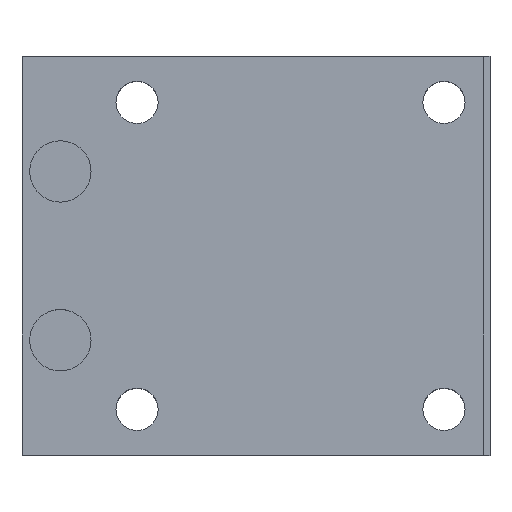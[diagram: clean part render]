
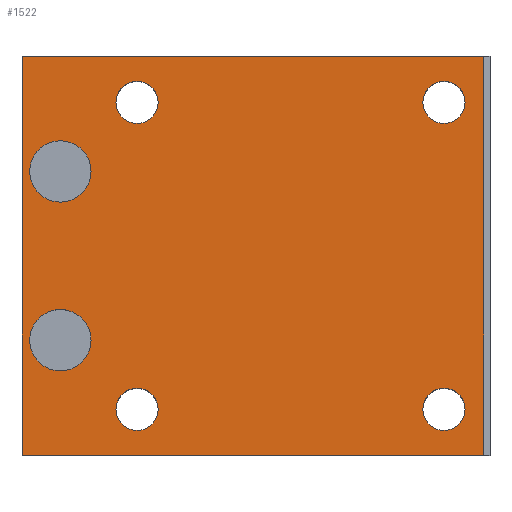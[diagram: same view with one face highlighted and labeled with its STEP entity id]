
A CAD part, top view. The second image highlights one B-rep face of the part: STEP entity #1522.
In plain terms, the highlighted planar face has unit normal (0, 0, 1).
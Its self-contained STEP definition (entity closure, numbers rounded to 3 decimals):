
#28 = EDGE_CURVE ( 'NONE', #543, #615, #150, .T. ) ;
#33 = CARTESIAN_POINT ( 'NONE',  ( 25.2, 26., 86.5 ) ) ;
#66 = CIRCLE ( 'NONE', #1108, 4. ) ;
#83 = CARTESIAN_POINT ( 'NONE',  ( -34., -11., 86.5 ) ) ;
#107 = EDGE_CURVE ( 'NONE', #718, #912, #810, .T. ) ;
#109 = EDGE_LOOP ( 'NONE', ( #925, #552 ) ) ;
#136 = LINE ( 'NONE', #534, #1280 ) ;
#150 = CIRCLE ( 'NONE', #1101, 2.75 ) ;
#154 = EDGE_CURVE ( 'NONE', #178, #311, #1574, .T. ) ;
#155 = CARTESIAN_POINT ( 'NONE',  ( -30., -11., 86.5 ) ) ;
#167 = CARTESIAN_POINT ( 'NONE',  ( 20., 20., 86.5 ) ) ;
#174 = CARTESIAN_POINT ( 'NONE',  ( 17.25, -20., 86.5 ) ) ;
#177 = CARTESIAN_POINT ( 'NONE',  ( 26., -26., 86.5 ) ) ;
#178 = VERTEX_POINT ( 'NONE', #83 ) ;
#185 = CIRCLE ( 'NONE', #1601, 2.75 ) ;
#208 = ORIENTED_EDGE ( 'NONE', *, *, #586, .F. ) ;
#213 = EDGE_CURVE ( 'NONE', #221, #1443, #1166, .T. ) ;
#221 = VERTEX_POINT ( 'NONE', #1030 ) ;
#227 = EDGE_LOOP ( 'NONE', ( #1055, #208 ) ) ;
#232 = CARTESIAN_POINT ( 'NONE',  ( -35., -26., 86.5 ) ) ;
#245 = CARTESIAN_POINT ( 'NONE',  ( 22.75, -20., 86.5 ) ) ;
#255 = DIRECTION ( 'NONE',  ( 1., 0., 0. ) ) ;
#258 = DIRECTION ( 'NONE',  ( 1., 0., 0. ) ) ;
#273 = DIRECTION ( 'NONE',  ( 1., 0., 0. ) ) ;
#311 = VERTEX_POINT ( 'NONE', #794 ) ;
#313 = DIRECTION ( 'NONE',  ( 1., 0., 0. ) ) ;
#330 = VERTEX_POINT ( 'NONE', #1616 ) ;
#335 = VECTOR ( 'NONE', #1557, 1000. ) ;
#351 = ORIENTED_EDGE ( 'NONE', *, *, #1432, .F. ) ;
#356 = EDGE_LOOP ( 'NONE', ( #975, #1075, #1744, #886 ) ) ;
#358 = DIRECTION ( 'NONE',  ( 1., 0., 0. ) ) ;
#371 = EDGE_CURVE ( 'NONE', #1746, #1094, #988, .T. ) ;
#380 = FACE_BOUND ( 'NONE', #109, .T. ) ;
#384 = VERTEX_POINT ( 'NONE', #421 ) ;
#388 = EDGE_CURVE ( 'NONE', #330, #1233, #1224, .T. ) ;
#402 = ORIENTED_EDGE ( 'NONE', *, *, #371, .F. ) ;
#408 = DIRECTION ( 'NONE',  ( 1., 0., 0. ) ) ;
#419 = EDGE_LOOP ( 'NONE', ( #446, #1778 ) ) ;
#421 = CARTESIAN_POINT ( 'NONE',  ( -17.25, 20., 86.5 ) ) ;
#428 = DIRECTION ( 'NONE',  ( -1., 0., 0. ) ) ;
#446 = ORIENTED_EDGE ( 'NONE', *, *, #1119, .F. ) ;
#448 = AXIS2_PLACEMENT_3D ( 'NONE', #1529, #1378, #1524 ) ;
#486 = CARTESIAN_POINT ( 'NONE',  ( 25.2, 26., 86.5 ) ) ;
#496 = DIRECTION ( 'NONE',  ( 1., 0., 0. ) ) ;
#519 = VERTEX_POINT ( 'NONE', #1145 ) ;
#534 = CARTESIAN_POINT ( 'NONE',  ( 26., 26., 86.5 ) ) ;
#541 = AXIS2_PLACEMENT_3D ( 'NONE', #778, #1315, #1427 ) ;
#543 = VERTEX_POINT ( 'NONE', #1034 ) ;
#544 = LINE ( 'NONE', #232, #1656 ) ;
#552 = ORIENTED_EDGE ( 'NONE', *, *, #1327, .F. ) ;
#586 = EDGE_CURVE ( 'NONE', #1233, #330, #66, .T. ) ;
#602 = EDGE_LOOP ( 'NONE', ( #1439, #402 ) ) ;
#615 = VERTEX_POINT ( 'NONE', #1041 ) ;
#638 = DIRECTION ( 'NONE',  ( 0., 0., 1. ) ) ;
#647 = AXIS2_PLACEMENT_3D ( 'NONE', #155, #1256, #408 ) ;
#655 = CARTESIAN_POINT ( 'NONE',  ( -35., 26., 86.5 ) ) ;
#662 = DIRECTION ( 'NONE',  ( 0., -1., 0. ) ) ;
#713 = DIRECTION ( 'NONE',  ( 0., 0., 1. ) ) ;
#714 = EDGE_CURVE ( 'NONE', #1549, #736, #544, .T. ) ;
#718 = VERTEX_POINT ( 'NONE', #789 ) ;
#732 = AXIS2_PLACEMENT_3D ( 'NONE', #1769, #1490, #255 ) ;
#736 = VERTEX_POINT ( 'NONE', #1208 ) ;
#746 = LINE ( 'NONE', #177, #335 ) ;
#778 = CARTESIAN_POINT ( 'NONE',  ( -30., -11., 86.5 ) ) ;
#784 = FACE_BOUND ( 'NONE', #419, .T. ) ;
#789 = CARTESIAN_POINT ( 'NONE',  ( 17.25, 20., 86.5 ) ) ;
#794 = CARTESIAN_POINT ( 'NONE',  ( -26., -11., 86.5 ) ) ;
#810 = CIRCLE ( 'NONE', #1383, 2.75 ) ;
#841 = DIRECTION ( 'NONE',  ( 1., 0., 0. ) ) ;
#849 = DIRECTION ( 'NONE',  ( 0., 0., 1. ) ) ;
#851 = AXIS2_PLACEMENT_3D ( 'NONE', #1523, #1504, #273 ) ;
#857 = EDGE_CURVE ( 'NONE', #384, #519, #1424, .T. ) ;
#882 = DIRECTION ( 'NONE',  ( 0., 0., 1. ) ) ;
#886 = ORIENTED_EDGE ( 'NONE', *, *, #714, .T. ) ;
#912 = VERTEX_POINT ( 'NONE', #1097 ) ;
#921 = FACE_BOUND ( 'NONE', #227, .T. ) ;
#925 = ORIENTED_EDGE ( 'NONE', *, *, #857, .F. ) ;
#967 = DIRECTION ( 'NONE',  ( 0., 0., 1. ) ) ;
#975 = ORIENTED_EDGE ( 'NONE', *, *, #1329, .T. ) ;
#988 = CIRCLE ( 'NONE', #732, 2.75 ) ;
#1014 = EDGE_LOOP ( 'NONE', ( #351, #1394 ) ) ;
#1019 = AXIS2_PLACEMENT_3D ( 'NONE', #1701, #1285, #1138 ) ;
#1030 = CARTESIAN_POINT ( 'NONE',  ( 25.2, -26., 86.5 ) ) ;
#1034 = CARTESIAN_POINT ( 'NONE',  ( -22.75, -20., 86.5 ) ) ;
#1041 = CARTESIAN_POINT ( 'NONE',  ( -17.25, -20., 86.5 ) ) ;
#1042 = PLANE ( 'NONE',  #1335 ) ;
#1055 = ORIENTED_EDGE ( 'NONE', *, *, #388, .F. ) ;
#1067 = CARTESIAN_POINT ( 'NONE',  ( -20., 20., 86.5 ) ) ;
#1075 = ORIENTED_EDGE ( 'NONE', *, *, #213, .T. ) ;
#1094 = VERTEX_POINT ( 'NONE', #245 ) ;
#1097 = CARTESIAN_POINT ( 'NONE',  ( 22.75, 20., 86.5 ) ) ;
#1099 = ORIENTED_EDGE ( 'NONE', *, *, #1647, .F. ) ;
#1101 = AXIS2_PLACEMENT_3D ( 'NONE', #1279, #849, #841 ) ;
#1104 = CARTESIAN_POINT ( 'NONE',  ( 20., -20., 86.5 ) ) ;
#1108 = AXIS2_PLACEMENT_3D ( 'NONE', #1731, #1292, #358 ) ;
#1113 = CIRCLE ( 'NONE', #1019, 2.75 ) ;
#1119 = EDGE_CURVE ( 'NONE', #311, #178, #1716, .T. ) ;
#1138 = DIRECTION ( 'NONE',  ( 1., 0., 0. ) ) ;
#1145 = CARTESIAN_POINT ( 'NONE',  ( -22.75, 20., 86.5 ) ) ;
#1166 = LINE ( 'NONE', #486, #1370 ) ;
#1206 = ORIENTED_EDGE ( 'NONE', *, *, #28, .F. ) ;
#1208 = CARTESIAN_POINT ( 'NONE',  ( -35., -26., 86.5 ) ) ;
#1223 = DIRECTION ( 'NONE',  ( 0., 0., 1. ) ) ;
#1224 = CIRCLE ( 'NONE', #448, 4. ) ;
#1233 = VERTEX_POINT ( 'NONE', #1235 ) ;
#1235 = CARTESIAN_POINT ( 'NONE',  ( -34., 11., 86.5 ) ) ;
#1255 = AXIS2_PLACEMENT_3D ( 'NONE', #1104, #967, #1519 ) ;
#1256 = DIRECTION ( 'NONE',  ( 0., 0., 1. ) ) ;
#1277 = EDGE_CURVE ( 'NONE', #1094, #1746, #1538, .T. ) ;
#1279 = CARTESIAN_POINT ( 'NONE',  ( -20., -20., 86.5 ) ) ;
#1280 = VECTOR ( 'NONE', #428, 1000. ) ;
#1285 = DIRECTION ( 'NONE',  ( 0., 0., 1. ) ) ;
#1292 = DIRECTION ( 'NONE',  ( 0., 0., 1. ) ) ;
#1315 = DIRECTION ( 'NONE',  ( 0., 0., 1. ) ) ;
#1326 = FACE_BOUND ( 'NONE', #602, .T. ) ;
#1327 = EDGE_CURVE ( 'NONE', #519, #384, #1113, .T. ) ;
#1329 = EDGE_CURVE ( 'NONE', #736, #221, #746, .T. ) ;
#1335 = AXIS2_PLACEMENT_3D ( 'NONE', #1475, #638, #496 ) ;
#1370 = VECTOR ( 'NONE', #1729, 1000. ) ;
#1378 = DIRECTION ( 'NONE',  ( 0., 0., 1. ) ) ;
#1383 = AXIS2_PLACEMENT_3D ( 'NONE', #167, #713, #1681 ) ;
#1394 = ORIENTED_EDGE ( 'NONE', *, *, #107, .F. ) ;
#1424 = CIRCLE ( 'NONE', #1481, 2.75 ) ;
#1427 = DIRECTION ( 'NONE',  ( 1., 0., 0. ) ) ;
#1432 = EDGE_CURVE ( 'NONE', #912, #718, #185, .T. ) ;
#1439 = ORIENTED_EDGE ( 'NONE', *, *, #1277, .F. ) ;
#1443 = VERTEX_POINT ( 'NONE', #33 ) ;
#1475 = CARTESIAN_POINT ( 'NONE',  ( 0., 0., 86.5 ) ) ;
#1481 = AXIS2_PLACEMENT_3D ( 'NONE', #1067, #1223, #258 ) ;
#1483 = CIRCLE ( 'NONE', #851, 2.75 ) ;
#1490 = DIRECTION ( 'NONE',  ( 0., 0., 1. ) ) ;
#1504 = DIRECTION ( 'NONE',  ( 0., 0., 1. ) ) ;
#1519 = DIRECTION ( 'NONE',  ( 1., 0., 0. ) ) ;
#1522 = ADVANCED_FACE ( 'NONE', ( #1615, #1326, #1732, #380, #921, #784, #1606 ), #1042, .T. ) ;
#1523 = CARTESIAN_POINT ( 'NONE',  ( -20., -20., 86.5 ) ) ;
#1524 = DIRECTION ( 'NONE',  ( 1., 0., 0. ) ) ;
#1526 = EDGE_LOOP ( 'NONE', ( #1099, #1206 ) ) ;
#1529 = CARTESIAN_POINT ( 'NONE',  ( -30., 11., 86.5 ) ) ;
#1538 = CIRCLE ( 'NONE', #1255, 2.75 ) ;
#1549 = VERTEX_POINT ( 'NONE', #655 ) ;
#1557 = DIRECTION ( 'NONE',  ( 1., 0., 0. ) ) ;
#1574 = CIRCLE ( 'NONE', #541, 4. ) ;
#1601 = AXIS2_PLACEMENT_3D ( 'NONE', #1695, #882, #313 ) ;
#1606 = FACE_OUTER_BOUND ( 'NONE', #356, .T. ) ;
#1615 = FACE_BOUND ( 'NONE', #1526, .T. ) ;
#1616 = CARTESIAN_POINT ( 'NONE',  ( -26., 11., 86.5 ) ) ;
#1647 = EDGE_CURVE ( 'NONE', #615, #543, #1483, .T. ) ;
#1656 = VECTOR ( 'NONE', #662, 1000. ) ;
#1680 = EDGE_CURVE ( 'NONE', #1443, #1549, #136, .T. ) ;
#1681 = DIRECTION ( 'NONE',  ( 1., 0., 0. ) ) ;
#1695 = CARTESIAN_POINT ( 'NONE',  ( 20., 20., 86.5 ) ) ;
#1701 = CARTESIAN_POINT ( 'NONE',  ( -20., 20., 86.5 ) ) ;
#1716 = CIRCLE ( 'NONE', #647, 4. ) ;
#1729 = DIRECTION ( 'NONE',  ( 0., 1., 0. ) ) ;
#1731 = CARTESIAN_POINT ( 'NONE',  ( -30., 11., 86.5 ) ) ;
#1732 = FACE_BOUND ( 'NONE', #1014, .T. ) ;
#1744 = ORIENTED_EDGE ( 'NONE', *, *, #1680, .T. ) ;
#1746 = VERTEX_POINT ( 'NONE', #174 ) ;
#1769 = CARTESIAN_POINT ( 'NONE',  ( 20., -20., 86.5 ) ) ;
#1778 = ORIENTED_EDGE ( 'NONE', *, *, #154, .F. ) ;
